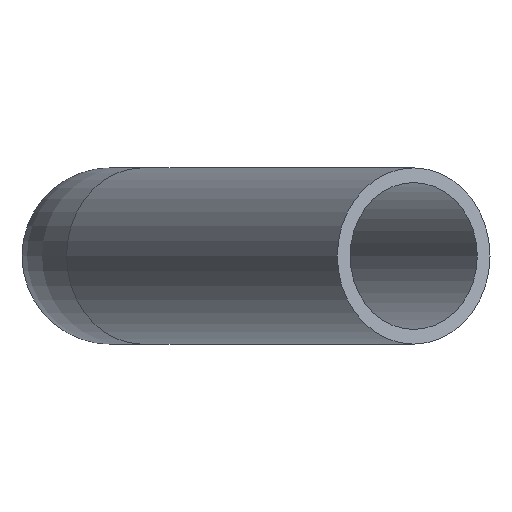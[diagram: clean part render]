
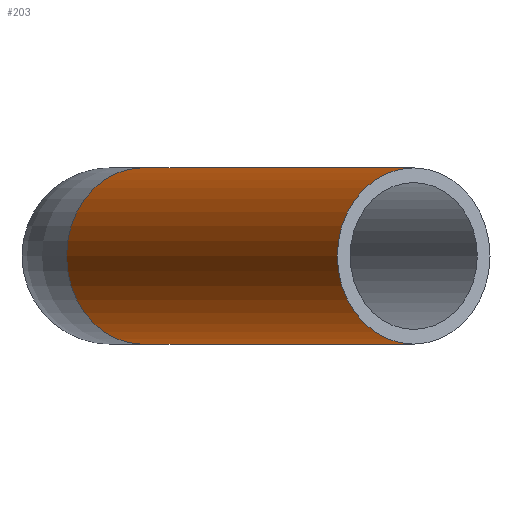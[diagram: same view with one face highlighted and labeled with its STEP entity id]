
A CAD part, left-side view. The second image highlights one B-rep face of the part: STEP entity #203.
In plain terms, the highlighted cylindrical face has radius 9 mm (diameter 18 mm), a full revolution.
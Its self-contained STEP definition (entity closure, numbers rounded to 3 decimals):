
#172=CARTESIAN_POINT('',(-17.,29.445,0.));
#173=VERTEX_POINT('',#172);
#174=CARTESIAN_POINT('',(-12.5,21.651,0.0));
#175=DIRECTION('',(-0.866,-0.5,0.0));
#176=DIRECTION('',(0.5,-0.866,0.0));
#177=AXIS2_PLACEMENT_3D('',#174,#175,#176);
#178=CIRCLE('',#177,9.0);
#179=EDGE_CURVE('',#173,#173,#178,.T.);
#184=CARTESIAN_POINT('',(-60.392,-6.,0.0));
#185=DIRECTION('',(0.866,0.5,0.0));
#186=DIRECTION('',(0.5,-0.866,0.0));
#187=AXIS2_PLACEMENT_3D('',#184,#185,#186);
#188=CYLINDRICAL_SURFACE('',#187,9.0);
#189=ORIENTED_EDGE('',*,*,#179,.T.);
#190=EDGE_LOOP('',(#189));
#191=FACE_OUTER_BOUND('',#190,.T.);
#192=CARTESIAN_POINT('',(-64.892,1.794,0.));
#193=VERTEX_POINT('',#192);
#194=CARTESIAN_POINT('',(-60.392,-6.,0.0));
#195=DIRECTION('',(-0.866,-0.5,0.0));
#196=DIRECTION('',(0.5,-0.866,0.0));
#197=AXIS2_PLACEMENT_3D('',#194,#195,#196);
#198=CIRCLE('',#197,9.0);
#199=EDGE_CURVE('',#193,#193,#198,.T.);
#200=ORIENTED_EDGE('',*,*,#199,.F.);
#201=EDGE_LOOP('',(#200));
#202=FACE_BOUND('',#201,.T.);
#203=ADVANCED_FACE('',(#191,#202),#188,.T.);
